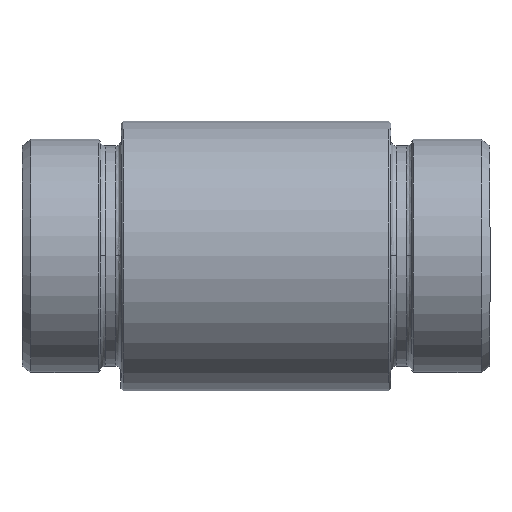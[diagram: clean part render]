
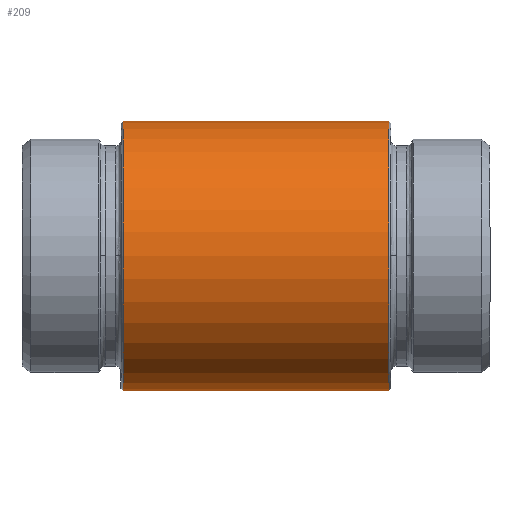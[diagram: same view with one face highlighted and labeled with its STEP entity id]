
A CAD part, top view. The second image highlights one B-rep face of the part: STEP entity #209.
In plain terms, the highlighted cylindrical face has radius 30 mm (diameter 60 mm), a partial arc.
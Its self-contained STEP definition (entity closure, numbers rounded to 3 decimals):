
#143=CARTESIAN_POINT('',(-30.0,0.,34.5));
#144=VERTEX_POINT('',#143);
#160=CARTESIAN_POINT('',(30.0,0.0,34.5));
#161=VERTEX_POINT('',#160);
#168=CARTESIAN_POINT('',(0.0,0.0,34.5));
#169=DIRECTION('',(0.0,0.0,1.0));
#170=DIRECTION('',(-1.0,0.0,0.0));
#171=AXIS2_PLACEMENT_3D('',#168,#169,#170);
#172=CIRCLE('',#171,30.0);
#173=EDGE_CURVE('',#161,#144,#172,.T.);
#178=CARTESIAN_POINT('',(0.0,0.0,-25.0));
#179=DIRECTION('',(0.0,0.0,1.0));
#180=DIRECTION('',(1.0,0.0,0.0));
#181=AXIS2_PLACEMENT_3D('',#178,#179,#180);
#182=CYLINDRICAL_SURFACE('',#181,30.0);
#183=CARTESIAN_POINT('',(30.0,0.0,-24.5));
#184=VERTEX_POINT('',#183);
#185=CARTESIAN_POINT('',(30.0,0.0,-24.5));
#186=DIRECTION('',(0.0,0.0,1.0));
#187=VECTOR('',#186,59.0);
#188=LINE('',#185,#187);
#189=EDGE_CURVE('',#184,#161,#188,.T.);
#190=ORIENTED_EDGE('',*,*,#189,.F.);
#191=CARTESIAN_POINT('',(-30.0,0.,-24.5));
#192=VERTEX_POINT('',#191);
#193=CARTESIAN_POINT('',(0.0,0.0,-24.5));
#194=DIRECTION('',(0.0,0.0,-1.0));
#195=DIRECTION('',(-1.0,0.0,0.0));
#196=AXIS2_PLACEMENT_3D('',#193,#194,#195);
#197=CIRCLE('',#196,30.0);
#198=EDGE_CURVE('',#192,#184,#197,.T.);
#199=ORIENTED_EDGE('',*,*,#198,.F.);
#200=CARTESIAN_POINT('',(-30.0,0.,34.5));
#201=DIRECTION('',(0.0,0.0,-1.0));
#202=VECTOR('',#201,59.0);
#203=LINE('',#200,#202);
#204=EDGE_CURVE('',#144,#192,#203,.T.);
#205=ORIENTED_EDGE('',*,*,#204,.F.);
#206=ORIENTED_EDGE('',*,*,#173,.F.);
#207=EDGE_LOOP('',(#190,#199,#205,#206));
#208=FACE_OUTER_BOUND('',#207,.T.);
#209=ADVANCED_FACE('',(#208),#182,.T.);
